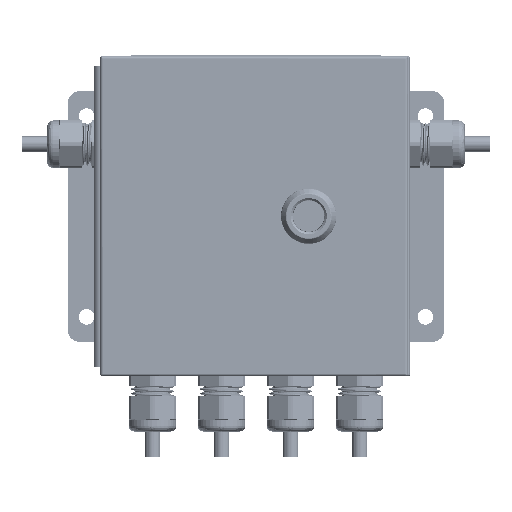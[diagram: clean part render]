
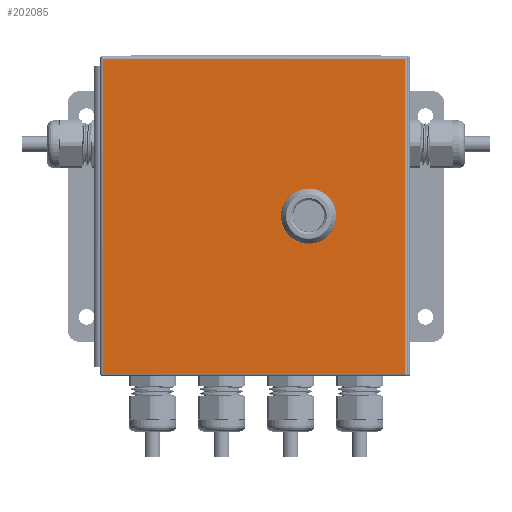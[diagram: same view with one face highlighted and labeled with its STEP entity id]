
A CAD part, top view. The second image highlights one B-rep face of the part: STEP entity #202085.
In plain terms, the highlighted planar face has unit normal (0, 0, 1).
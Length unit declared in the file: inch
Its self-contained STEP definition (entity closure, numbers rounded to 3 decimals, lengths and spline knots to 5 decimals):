
#6615 = VERTEX_POINT ( 'NONE', #117524 ) ;
#10488 = EDGE_CURVE ( 'NONE', #279430, #366197, #27780, .T. ) ;
#15887 = VECTOR ( 'NONE', #70572, 39.37008 ) ;
#19815 = VERTEX_POINT ( 'NONE', #80014 ) ;
#20994 = ORIENTED_EDGE ( 'NONE', *, *, #134297, .T. ) ;
#27780 = LINE ( 'NONE', #184523, #292619 ) ;
#30513 = ORIENTED_EDGE ( 'NONE', *, *, #392548, .F. ) ;
#31639 = ORIENTED_EDGE ( 'NONE', *, *, #10488, .T. ) ;
#36170 = CARTESIAN_POINT ( 'NONE',  ( 1.0875, 0., 0. ) ) ;
#37884 = PLANE ( 'NONE',  #440353 ) ;
#48077 = LINE ( 'NONE', #411131, #357213 ) ;
#49455 = ORIENTED_EDGE ( 'NONE', *, *, #193675, .F. ) ;
#52038 = LINE ( 'NONE', #179878, #245462 ) ;
#52083 = ORIENTED_EDGE ( 'NONE', *, *, #78423, .T. ) ;
#57630 = EDGE_CURVE ( 'NONE', #506386, #323871, #239776, .T. ) ;
#66751 = CARTESIAN_POINT ( 'NONE',  ( 1.28707, -0.3955, 0. ) ) ;
#70336 = CIRCLE ( 'NONE', #437217, 0.443 ) ;
#70572 = DIRECTION ( 'NONE',  ( 0., 1., 0. ) ) ;
#78423 = EDGE_CURVE ( 'NONE', #241217, #279430, #343833, .T. ) ;
#80014 = CARTESIAN_POINT ( 'NONE',  ( 0.88793, 0.3955, 0. ) ) ;
#86279 = EDGE_LOOP ( 'NONE', ( #318318, #429833, #49455, #225452, #249997, #298896, #348822, #30513 ) ) ;
#90174 = CARTESIAN_POINT ( 'NONE',  ( 1.0875, 0., 0. ) ) ;
#90838 = EDGE_LOOP ( 'NONE', ( #52083, #31639, #20994, #151459 ) ) ;
#98750 = DIRECTION ( 'NONE',  ( -1., 0., 0. ) ) ;
#99619 = AXIS2_PLACEMENT_3D ( 'NONE', #257864, #346566, #505926 ) ;
#100499 = DIRECTION ( 'NONE',  ( 0., 0., 1. ) ) ;
#113900 = DIRECTION ( 'NONE',  ( 0., -1., 0. ) ) ;
#117524 = CARTESIAN_POINT ( 'NONE',  ( 1.483, 0.19957, 0. ) ) ;
#119682 = DIRECTION ( 'NONE',  ( 1., 0., 0. ) ) ;
#129346 = CARTESIAN_POINT ( 'NONE',  ( 3.0095, -3.1345, 0. ) ) ;
#134297 = EDGE_CURVE ( 'NONE', #366197, #497550, #510973, .T. ) ;
#138239 = VERTEX_POINT ( 'NONE', #66751 ) ;
#145095 = CARTESIAN_POINT ( 'NONE',  ( 0.692, 0.19957, 0. ) ) ;
#151459 = ORIENTED_EDGE ( 'NONE', *, *, #283254, .T. ) ;
#153009 = CARTESIAN_POINT ( 'NONE',  ( -3.0095, -3.1345, 0. ) ) ;
#160561 = FACE_BOUND ( 'NONE', #86279, .T. ) ;
#165678 = VECTOR ( 'NONE', #268019, 39.37008 ) ;
#173338 = DIRECTION ( 'NONE',  ( 1., 0., 0. ) ) ;
#179878 = CARTESIAN_POINT ( 'NONE',  ( 0.692, 0.19957, 0. ) ) ;
#183830 = LINE ( 'NONE', #343176, #316839 ) ;
#184253 = VERTEX_POINT ( 'NONE', #409624 ) ;
#184523 = CARTESIAN_POINT ( 'NONE',  ( -3.0095, 3.1345, 0. ) ) ;
#193675 = EDGE_CURVE ( 'NONE', #138239, #184253, #504576, .T. ) ;
#195895 = CARTESIAN_POINT ( 'NONE',  ( 1.483, 0.19957, 0. ) ) ;
#200769 = CARTESIAN_POINT ( 'NONE',  ( 0.692, -0.19957, 0. ) ) ;
#202085 = ADVANCED_FACE ( 'NONE', ( #160561, #354001 ), #37884, .T. ) ;
#207321 = EDGE_CURVE ( 'NONE', #184253, #6615, #475371, .T. ) ;
#225452 = ORIENTED_EDGE ( 'NONE', *, *, #252553, .F. ) ;
#233736 = VERTEX_POINT ( 'NONE', #145095 ) ;
#239776 = CIRCLE ( 'NONE', #373276, 0.443 ) ;
#241217 = VERTEX_POINT ( 'NONE', #440051 ) ;
#245462 = VECTOR ( 'NONE', #481228, 39.37008 ) ;
#249997 = ORIENTED_EDGE ( 'NONE', *, *, #57630, .F. ) ;
#252553 = EDGE_CURVE ( 'NONE', #323871, #138239, #48077, .T. ) ;
#257864 = CARTESIAN_POINT ( 'NONE',  ( 1.0875, 0., 0. ) ) ;
#262882 = CARTESIAN_POINT ( 'NONE',  ( 3.0095, 3.1345, 0. ) ) ;
#268019 = DIRECTION ( 'NONE',  ( 1., 0., 0. ) ) ;
#270803 = CARTESIAN_POINT ( 'NONE',  ( -3.0095, 3.1345, 0. ) ) ;
#279327 = AXIS2_PLACEMENT_3D ( 'NONE', #36170, #477579, #119682 ) ;
#279430 = VERTEX_POINT ( 'NONE', #270803 ) ;
#283254 = EDGE_CURVE ( 'NONE', #497550, #241217, #183830, .T. ) ;
#283277 = DIRECTION ( 'NONE',  ( 1., 0., 0. ) ) ;
#292619 = VECTOR ( 'NONE', #113900, 39.37008 ) ;
#292978 = CARTESIAN_POINT ( 'NONE',  ( 0.88793, -0.3955, 0. ) ) ;
#295697 = EDGE_CURVE ( 'NONE', #233736, #506386, #52038, .T. ) ;
#298896 = ORIENTED_EDGE ( 'NONE', *, *, #295697, .F. ) ;
#316839 = VECTOR ( 'NONE', #502545, 39.37008 ) ;
#318318 = ORIENTED_EDGE ( 'NONE', *, *, #438191, .F. ) ;
#323871 = VERTEX_POINT ( 'NONE', #292978 ) ;
#343176 = CARTESIAN_POINT ( 'NONE',  ( 3.0095, -3.1345, 0. ) ) ;
#343833 = LINE ( 'NONE', #262882, #359369 ) ;
#346566 = DIRECTION ( 'NONE',  ( 0., 0., 1. ) ) ;
#348298 = CARTESIAN_POINT ( 'NONE',  ( 1.28707, 0.3955, 0. ) ) ;
#348554 = DIRECTION ( 'NONE',  ( 1., 0., 0. ) ) ;
#348822 = ORIENTED_EDGE ( 'NONE', *, *, #424329, .F. ) ;
#354001 = FACE_OUTER_BOUND ( 'NONE', #90838, .T. ) ;
#357213 = VECTOR ( 'NONE', #173338, 39.37008 ) ;
#359369 = VECTOR ( 'NONE', #424813, 39.37008 ) ;
#366197 = VERTEX_POINT ( 'NONE', #446868 ) ;
#373276 = AXIS2_PLACEMENT_3D ( 'NONE', #505346, #100499, #348554 ) ;
#392548 = EDGE_CURVE ( 'NONE', #435945, #19815, #454105, .T. ) ;
#393219 = CARTESIAN_POINT ( 'NONE',  ( 0., 0., 0. ) ) ;
#403774 = DIRECTION ( 'NONE',  ( 0., 0., 1. ) ) ;
#408929 = DIRECTION ( 'NONE',  ( 1., 0., 0. ) ) ;
#409624 = CARTESIAN_POINT ( 'NONE',  ( 1.483, -0.19957, 0. ) ) ;
#411131 = CARTESIAN_POINT ( 'NONE',  ( 0.88793, -0.3955, 0. ) ) ;
#424329 = EDGE_CURVE ( 'NONE', #19815, #233736, #70336, .T. ) ;
#424813 = DIRECTION ( 'NONE',  ( -1., 0., 0. ) ) ;
#429833 = ORIENTED_EDGE ( 'NONE', *, *, #207321, .F. ) ;
#434944 = DIRECTION ( 'NONE',  ( 0., 0., 1. ) ) ;
#435945 = VERTEX_POINT ( 'NONE', #348298 ) ;
#437217 = AXIS2_PLACEMENT_3D ( 'NONE', #90174, #403774, #408929 ) ;
#438191 = EDGE_CURVE ( 'NONE', #6615, #435945, #516981, .T. ) ;
#440051 = CARTESIAN_POINT ( 'NONE',  ( 3.0095, 3.1345, 0. ) ) ;
#440353 = AXIS2_PLACEMENT_3D ( 'NONE', #393219, #434944, #283277 ) ;
#446868 = CARTESIAN_POINT ( 'NONE',  ( -3.0095, -3.1345, 0. ) ) ;
#454105 = LINE ( 'NONE', #456666, #457604 ) ;
#456666 = CARTESIAN_POINT ( 'NONE',  ( 0.88793, 0.3955, 0. ) ) ;
#457604 = VECTOR ( 'NONE', #98750, 39.37008 ) ;
#475371 = LINE ( 'NONE', #195895, #15887 ) ;
#477579 = DIRECTION ( 'NONE',  ( 0., 0., 1. ) ) ;
#481228 = DIRECTION ( 'NONE',  ( 0., -1., 0. ) ) ;
#497550 = VERTEX_POINT ( 'NONE', #129346 ) ;
#502545 = DIRECTION ( 'NONE',  ( 0., 1., 0. ) ) ;
#504576 = CIRCLE ( 'NONE', #279327, 0.443 ) ;
#505346 = CARTESIAN_POINT ( 'NONE',  ( 1.0875, 0., 0. ) ) ;
#505926 = DIRECTION ( 'NONE',  ( 1., 0., 0. ) ) ;
#506386 = VERTEX_POINT ( 'NONE', #200769 ) ;
#510973 = LINE ( 'NONE', #153009, #165678 ) ;
#516981 = CIRCLE ( 'NONE', #99619, 0.443 ) ;
